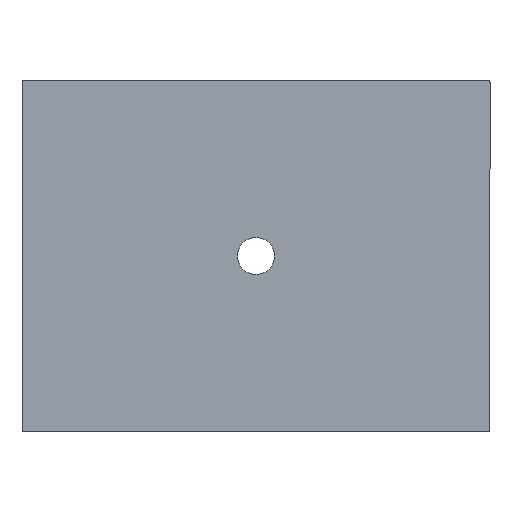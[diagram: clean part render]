
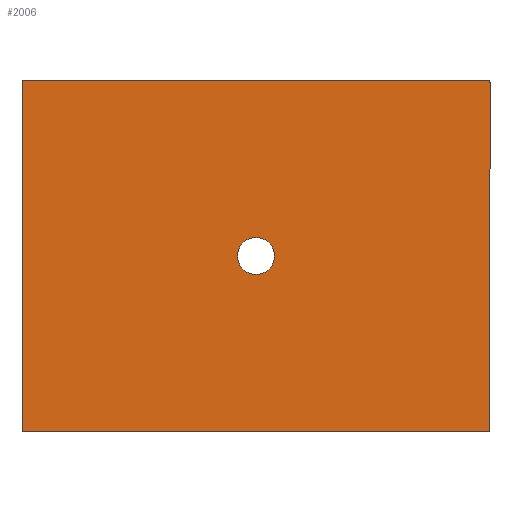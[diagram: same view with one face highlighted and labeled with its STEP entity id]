
A CAD part, front view. The second image highlights one B-rep face of the part: STEP entity #2006.
In plain terms, the highlighted planar face has unit normal (0, -1, 0).
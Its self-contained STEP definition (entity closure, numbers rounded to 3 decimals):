
#112 = EDGE_CURVE ( 'NONE', #1841, #1584, #956, .T. ) ;
#116 = DIRECTION ( 'NONE',  ( 0., 0., 1. ) ) ;
#126 = VECTOR ( 'NONE', #1510, 1000. ) ;
#131 = CARTESIAN_POINT ( 'NONE',  ( 0., 0., 0. ) ) ;
#148 = CARTESIAN_POINT ( 'NONE',  ( -600., 0., 447.929 ) ) ;
#217 = CARTESIAN_POINT ( 'NONE',  ( -600., 0., -447.929 ) ) ;
#224 = VERTEX_POINT ( 'NONE', #718 ) ;
#228 = CARTESIAN_POINT ( 'NONE',  ( -595.001, 0., -450. ) ) ;
#298 = VERTEX_POINT ( 'NONE', #478 ) ;
#328 = AXIS2_PLACEMENT_3D ( 'NONE', #1955, #1366, #785 ) ;
#337 = CARTESIAN_POINT ( 'NONE',  ( -597.929, 0., 450. ) ) ;
#385 = LINE ( 'NONE', #2331, #126 ) ;
#403 = VERTEX_POINT ( 'NONE', #1458 ) ;
#408 = CARTESIAN_POINT ( 'NONE',  ( 595.001, 0., 450. ) ) ;
#442 = EDGE_CURVE ( 'NONE', #403, #1910, #1132, .T. ) ;
#478 = CARTESIAN_POINT ( 'NONE',  ( 0., 0., -47.5 ) ) ;
#584 = DIRECTION ( 'NONE',  ( 1., 0., 0. ) ) ;
#600 =( BOUNDED_CURVE ( )  B_SPLINE_CURVE ( 3, ( #2013, #2367, #2170, #408 ),
 .UNSPECIFIED., .F., .F. ) 
 B_SPLINE_CURVE_WITH_KNOTS ( ( 4, 4 ),
 ( 5.498, 7.068 ),
 .UNSPECIFIED. ) 
 CURVE ( )  GEOMETRIC_REPRESENTATION_ITEM ( )  RATIONAL_B_SPLINE_CURVE ( ( 1., 0.805, 0.805, 1. ) ) 
 REPRESENTATION_ITEM ( '' )  );
#624 = ORIENTED_EDGE ( 'NONE', *, *, #1582, .F. ) ;
#628 = CARTESIAN_POINT ( 'NONE',  ( -600., 0., -445.001 ) ) ;
#646 = VERTEX_POINT ( 'NONE', #1474 ) ;
#694 = AXIS2_PLACEMENT_3D ( 'NONE', #131, #1874, #116 ) ;
#705 = CARTESIAN_POINT ( 'NONE',  ( 600., 0., -450. ) ) ;
#718 = CARTESIAN_POINT ( 'NONE',  ( -595.001, 0., -450. ) ) ;
#764 = DIRECTION ( 'NONE',  ( 0., 0., 1. ) ) ;
#771 = CARTESIAN_POINT ( 'NONE',  ( -600., 0., 450. ) ) ;
#785 = DIRECTION ( 'NONE',  ( 0., 0., -1. ) ) ;
#840 = CARTESIAN_POINT ( 'NONE',  ( 595.001, 0., -450. ) ) ;
#893 = PLANE ( 'NONE',  #694 ) ;
#899 = CIRCLE ( 'NONE', #328, 47.5 ) ;
#905 = ORIENTED_EDGE ( 'NONE', *, *, #1449, .F. ) ;
#909 = EDGE_CURVE ( 'NONE', #298, #298, #899, .T. ) ;
#956 =( BOUNDED_CURVE ( )  B_SPLINE_CURVE ( 3, ( #1431, #1656, #2239, #1024 ),
 .UNSPECIFIED., .F., .F. ) 
 B_SPLINE_CURVE_WITH_KNOTS ( ( 4, 4 ),
 ( 5.498, 7.068 ),
 .UNSPECIFIED. ) 
 CURVE ( )  GEOMETRIC_REPRESENTATION_ITEM ( )  RATIONAL_B_SPLINE_CURVE ( ( 1., 0.805, 0.805, 1. ) ) 
 REPRESENTATION_ITEM ( '' )  );
#961 = CARTESIAN_POINT ( 'NONE',  ( 600., 0., -445.001 ) ) ;
#977 = EDGE_CURVE ( 'NONE', #403, #2532, #1176, .T. ) ;
#1017 = VECTOR ( 'NONE', #584, 1000. ) ;
#1024 = CARTESIAN_POINT ( 'NONE',  ( 600., 0., -445.001 ) ) ;
#1027 = ORIENTED_EDGE ( 'NONE', *, *, #1778, .T. ) ;
#1036 =( BOUNDED_CURVE ( )  B_SPLINE_CURVE ( 3, ( #628, #217, #1363, #228 ),
 .UNSPECIFIED., .F., .T. ) 
 B_SPLINE_CURVE_WITH_KNOTS ( ( 4, 4 ),
 ( 5.498, 7.068 ),
 .UNSPECIFIED. ) 
 CURVE ( )  GEOMETRIC_REPRESENTATION_ITEM ( )  RATIONAL_B_SPLINE_CURVE ( ( 1., 0.805, 0.805, 1. ) ) 
 REPRESENTATION_ITEM ( '' )  );
#1111 = CARTESIAN_POINT ( 'NONE',  ( -600., 0., -450. ) ) ;
#1132 =( BOUNDED_CURVE ( )  B_SPLINE_CURVE ( 3, ( #2486, #337, #148, #2458 ),
 .UNSPECIFIED., .F., .F. ) 
 B_SPLINE_CURVE_WITH_KNOTS ( ( 4, 4 ),
 ( 5.498, 7.068 ),
 .UNSPECIFIED. ) 
 CURVE ( )  GEOMETRIC_REPRESENTATION_ITEM ( )  RATIONAL_B_SPLINE_CURVE ( ( 1., 0.805, 0.805, 1. ) ) 
 REPRESENTATION_ITEM ( '' )  );
#1159 = EDGE_LOOP ( 'NONE', ( #2465, #1783, #624, #1493, #1817, #2326, #905, #1027 ) ) ;
#1170 = ORIENTED_EDGE ( 'NONE', *, *, #909, .F. ) ;
#1176 = LINE ( 'NONE', #771, #1017 ) ;
#1262 = FACE_BOUND ( 'NONE', #1690, .T. ) ;
#1303 = CARTESIAN_POINT ( 'NONE',  ( 595.001, 0., 450. ) ) ;
#1363 = CARTESIAN_POINT ( 'NONE',  ( -597.929, 0., -450. ) ) ;
#1366 = DIRECTION ( 'NONE',  ( 0., -1., 0. ) ) ;
#1407 = VERTEX_POINT ( 'NONE', #1937 ) ;
#1411 = CARTESIAN_POINT ( 'NONE',  ( -600., 0., 445.001 ) ) ;
#1431 = CARTESIAN_POINT ( 'NONE',  ( 595.001, 0., -450. ) ) ;
#1449 = EDGE_CURVE ( 'NONE', #1407, #1910, #2092, .T. ) ;
#1458 = CARTESIAN_POINT ( 'NONE',  ( -595.001, 0., 450. ) ) ;
#1474 = CARTESIAN_POINT ( 'NONE',  ( 600., 0., 445.001 ) ) ;
#1493 = ORIENTED_EDGE ( 'NONE', *, *, #1931, .T. ) ;
#1510 = DIRECTION ( 'NONE',  ( 0., 0., -1. ) ) ;
#1556 = VECTOR ( 'NONE', #764, 1000. ) ;
#1582 = EDGE_CURVE ( 'NONE', #646, #1584, #385, .T. ) ;
#1584 = VERTEX_POINT ( 'NONE', #961 ) ;
#1637 = FACE_OUTER_BOUND ( 'NONE', #1159, .T. ) ;
#1656 = CARTESIAN_POINT ( 'NONE',  ( 597.929, 0., -450. ) ) ;
#1690 = EDGE_LOOP ( 'NONE', ( #1170 ) ) ;
#1706 = DIRECTION ( 'NONE',  ( -1., 0., 0. ) ) ;
#1778 = EDGE_CURVE ( 'NONE', #1407, #224, #1036, .T. ) ;
#1783 = ORIENTED_EDGE ( 'NONE', *, *, #112, .T. ) ;
#1817 = ORIENTED_EDGE ( 'NONE', *, *, #977, .F. ) ;
#1841 = VERTEX_POINT ( 'NONE', #840 ) ;
#1874 = DIRECTION ( 'NONE',  ( 0., 1., 0. ) ) ;
#1910 = VERTEX_POINT ( 'NONE', #1411 ) ;
#1931 = EDGE_CURVE ( 'NONE', #646, #2532, #600, .T. ) ;
#1937 = CARTESIAN_POINT ( 'NONE',  ( -600., 0., -445.001 ) ) ;
#1955 = CARTESIAN_POINT ( 'NONE',  ( 0., 0., 0. ) ) ;
#2006 = ADVANCED_FACE ( 'NONE', ( #1262, #1637 ), #893, .F. ) ;
#2013 = CARTESIAN_POINT ( 'NONE',  ( 600., 0., 445.001 ) ) ;
#2092 = LINE ( 'NONE', #1111, #1556 ) ;
#2097 = LINE ( 'NONE', #705, #2260 ) ;
#2170 = CARTESIAN_POINT ( 'NONE',  ( 597.929, 0., 450. ) ) ;
#2239 = CARTESIAN_POINT ( 'NONE',  ( 600., 0., -447.929 ) ) ;
#2260 = VECTOR ( 'NONE', #1706, 1000. ) ;
#2326 = ORIENTED_EDGE ( 'NONE', *, *, #442, .T. ) ;
#2331 = CARTESIAN_POINT ( 'NONE',  ( 600., 0., 450. ) ) ;
#2367 = CARTESIAN_POINT ( 'NONE',  ( 600., 0., 447.929 ) ) ;
#2458 = CARTESIAN_POINT ( 'NONE',  ( -600., 0., 445.001 ) ) ;
#2465 = ORIENTED_EDGE ( 'NONE', *, *, #2540, .F. ) ;
#2486 = CARTESIAN_POINT ( 'NONE',  ( -595.001, 0., 450. ) ) ;
#2532 = VERTEX_POINT ( 'NONE', #1303 ) ;
#2540 = EDGE_CURVE ( 'NONE', #1841, #224, #2097, .T. ) ;
